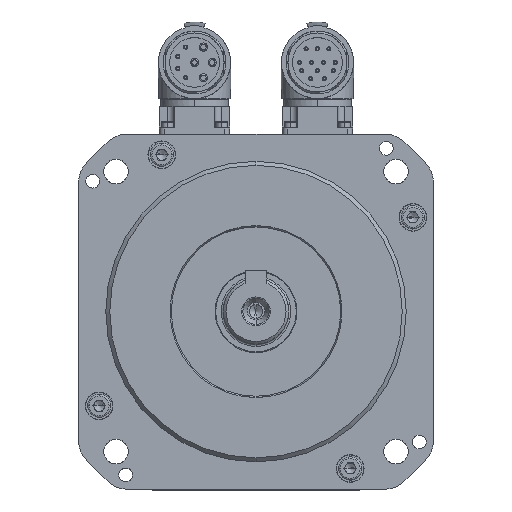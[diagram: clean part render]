
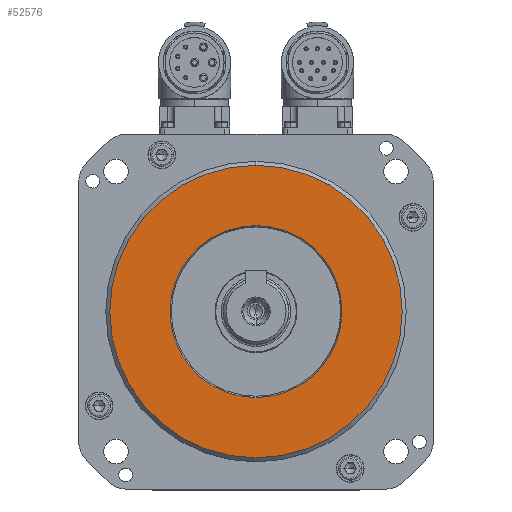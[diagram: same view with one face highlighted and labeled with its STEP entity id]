
A CAD part, top view. The second image highlights one B-rep face of the part: STEP entity #52576.
In plain terms, the highlighted planar face has unit normal (0, 0, 1).
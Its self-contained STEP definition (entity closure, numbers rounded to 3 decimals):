
#594 = PLANE ( 'NONE',  #48963 ) ;
#665 = CARTESIAN_POINT ( 'NONE',  ( 0., 0., 66.8 ) ) ;
#1207 = AXIS2_PLACEMENT_3D ( 'NONE', #7408, #55704, #60317 ) ;
#2177 = AXIS2_PLACEMENT_3D ( 'NONE', #665, #53973, #58617 ) ;
#3499 = EDGE_CURVE ( 'NONE', #50751, #30581, #57914, .T. ) ;
#6739 = CARTESIAN_POINT ( 'NONE',  ( 0., -53.54, 66.8 ) ) ;
#7408 = CARTESIAN_POINT ( 'NONE',  ( 0., 0., 66.8 ) ) ;
#7607 = AXIS2_PLACEMENT_3D ( 'NONE', #13763, #57169, #9103 ) ;
#8883 = VERTEX_POINT ( 'NONE', #37189 ) ;
#9103 = DIRECTION ( 'NONE',  ( 0., -1., 0. ) ) ;
#9394 = AXIS2_PLACEMENT_3D ( 'NONE', #39832, #25458, #49693 ) ;
#10918 = ORIENTED_EDGE ( 'NONE', *, *, #40835, .F. ) ;
#13763 = CARTESIAN_POINT ( 'NONE',  ( 0., 0., 66.8 ) ) ;
#15029 = EDGE_CURVE ( 'NONE', #57721, #8883, #46859, .T. ) ;
#25356 = CARTESIAN_POINT ( 'NONE',  ( 0., 31.481, 66.8 ) ) ;
#25458 = DIRECTION ( 'NONE',  ( 0., 0., 1. ) ) ;
#29225 = CARTESIAN_POINT ( 'NONE',  ( 0., 0., 66.8 ) ) ;
#30581 = VERTEX_POINT ( 'NONE', #45254 ) ;
#32474 = EDGE_LOOP ( 'NONE', ( #34820, #44148 ) ) ;
#34291 = DIRECTION ( 'NONE',  ( 0., -1., 0. ) ) ;
#34753 = FACE_BOUND ( 'NONE', #45493, .T. ) ;
#34820 = ORIENTED_EDGE ( 'NONE', *, *, #50788, .T. ) ;
#37189 = CARTESIAN_POINT ( 'NONE',  ( 0., 53.54, 66.8 ) ) ;
#38941 = DIRECTION ( 'NONE',  ( 0., 0., 1. ) ) ;
#39663 = ORIENTED_EDGE ( 'NONE', *, *, #3499, .F. ) ;
#39832 = CARTESIAN_POINT ( 'NONE',  ( 0., 0., 66.8 ) ) ;
#40835 = EDGE_CURVE ( 'NONE', #30581, #50751, #50404, .T. ) ;
#43063 = FACE_OUTER_BOUND ( 'NONE', #32474, .T. ) ;
#44148 = ORIENTED_EDGE ( 'NONE', *, *, #15029, .T. ) ;
#45254 = CARTESIAN_POINT ( 'NONE',  ( 0., -31.481, 66.8 ) ) ;
#45493 = EDGE_LOOP ( 'NONE', ( #39663, #10918 ) ) ;
#46859 = CIRCLE ( 'NONE', #2177, 53.54 ) ;
#48963 = AXIS2_PLACEMENT_3D ( 'NONE', #29225, #38941, #34291 ) ;
#49255 = CIRCLE ( 'NONE', #1207, 53.54 ) ;
#49693 = DIRECTION ( 'NONE',  ( 0., -1., 0. ) ) ;
#50404 = CIRCLE ( 'NONE', #9394, 31.481 ) ;
#50751 = VERTEX_POINT ( 'NONE', #25356 ) ;
#50788 = EDGE_CURVE ( 'NONE', #8883, #57721, #49255, .T. ) ;
#52576 = ADVANCED_FACE ( 'NONE', ( #34753, #43063 ), #594, .T. ) ;
#53973 = DIRECTION ( 'NONE',  ( 0., 0., 1. ) ) ;
#55704 = DIRECTION ( 'NONE',  ( 0., 0., 1. ) ) ;
#57169 = DIRECTION ( 'NONE',  ( 0., 0., 1. ) ) ;
#57721 = VERTEX_POINT ( 'NONE', #6739 ) ;
#57914 = CIRCLE ( 'NONE', #7607, 31.481 ) ;
#58617 = DIRECTION ( 'NONE',  ( 0., -1., 0. ) ) ;
#60317 = DIRECTION ( 'NONE',  ( 0., -1., 0. ) ) ;
